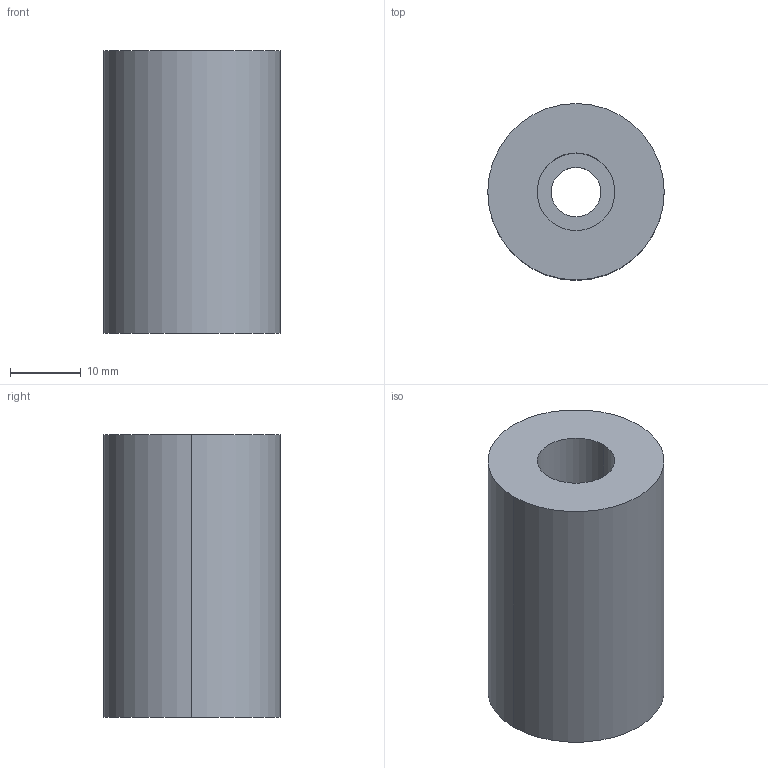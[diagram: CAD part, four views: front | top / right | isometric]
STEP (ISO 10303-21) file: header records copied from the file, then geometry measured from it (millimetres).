
FILE_DESCRIPTION(/* description */ (''),/* implementation_level */ '2;1');
FILE_NAME(/* name */ '3d_azn25-40_03257_r00.stp',/* time_stamp */ '2011-01-10T14:17:33+09:00',/* author */ ('MISUMI'),/* organization */ (''),/* preprocessor_version */ 'ST-DEVELOPER v11',/* originating_system */ 'UGS - NX 5.0',/* authorisation */ '');
FILE_SCHEMA (('CONFIG_CONTROL_DESIGN'));
Length unit declared in the file: millimetre
Products named in the file (1): 3d_azn25-40_03257_r00
Bounding box: 25 x 25 x 40 mm (x, y, z)
Volume: 16399.1 mm3; surface area: 5303 mm2
Topology: 1 solids, 1 shells, 9 faces, 18 edges, 12 vertices
Faces by surface type: cylinder 6, plane 3
Entity records: 334 total; most frequent: DIRECTION 50, CARTESIAN_POINT 40, ORIENTED_EDGE 36, AXIS2_PLACEMENT_3D 22, EDGE_CURVE 18, EDGE_LOOP 12, VERTEX_POINT 12, CIRCLE 12
